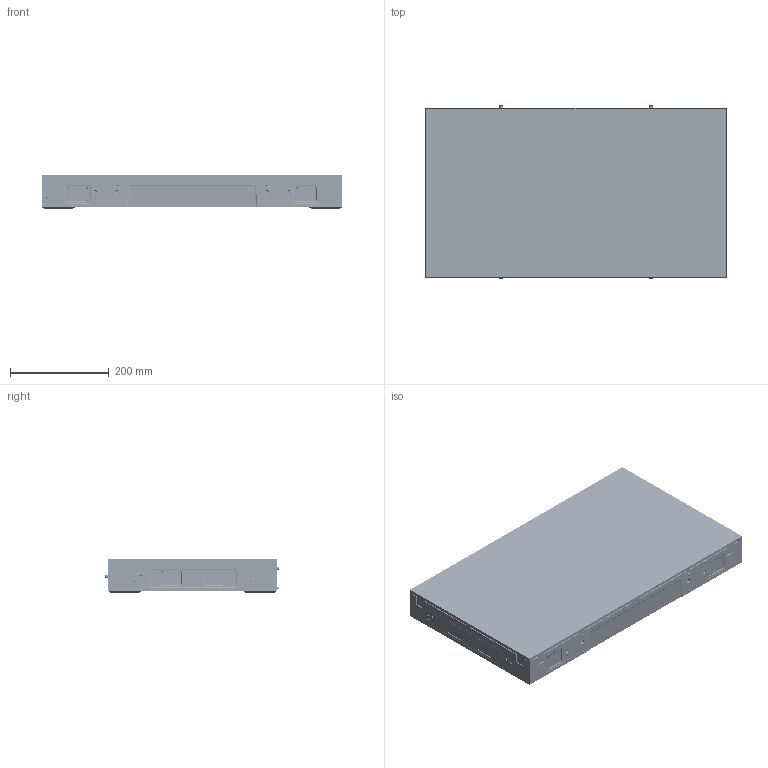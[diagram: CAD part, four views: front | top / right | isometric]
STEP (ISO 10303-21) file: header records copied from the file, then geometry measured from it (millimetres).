
FILE_DESCRIPTION(/* description */ (''),/* implementation_level */ '2;1');
FILE_NAME(/* name */ 'Cancun_Out_Line_0510_7.stp',/* time_stamp */ '2022-05-11T14:42:51+09:00',/* author */ (''),/* organization */ (''),/* preprocessor_version */ 'ST-DEVELOPER v18.1',/* originating_system */ 'SIEMENS PLM Software NX 1973',/* authorisation */ '');
FILE_SCHEMA (('AUTOMOTIVE_DESIGN { 1 0 10303 214 3 1 1 1 }'));
Products named in the file (1): Cancun_Out_Line_0510_7
Bounding box: 609.87 x 351.51 x 68.95 mm (x, y, z)
Volume: 12833583.9 mm3; surface area: 822825.2 mm2
Topology: 2 solids, 59 shells, 8099 faces, 18513 edges, 9959 vertices
Faces by surface type: cylinder 3445, plane 1895, bspline 1508, sphere 912, torus 154, cone 126, revolution 30, extrusion 29
Full cylindrical faces by diameter (mm): 2.5 x18, 4 x2, 4.2 x2, 5 x18, 5.5 x4, 6.179 x2, 6.5 x4, 6.8 x4, 7 x3, 7.1 x10, 7.2 x2, 8 x4, 11.071 x1
Entity records: 284332 total; most frequent: CARTESIAN_POINT 123068, ORIENTED_EDGE 34726, DIRECTION 29747, EDGE_CURVE 17363, AXIS2_PLACEMENT_3D 10992, VERTEX_POINT 9889, EDGE_LOOP 8606, ADVANCED_FACE 8099
